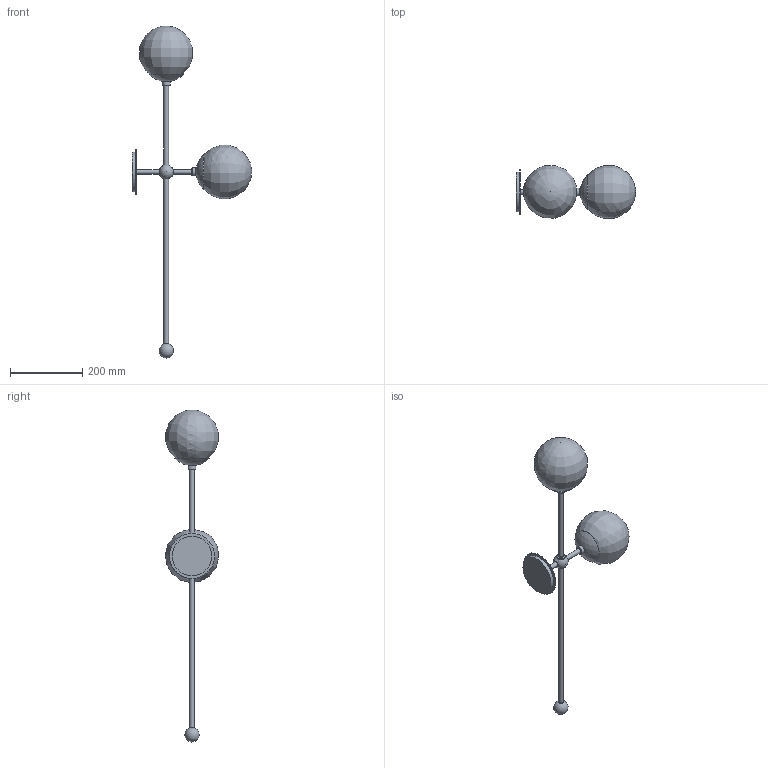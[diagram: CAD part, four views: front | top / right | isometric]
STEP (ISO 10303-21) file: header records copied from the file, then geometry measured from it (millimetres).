
FILE_DESCRIPTION(/* description */ (''),/* implementation_level */ '2;1');
FILE_NAME(/* name */ 'T:\B577 Globe Armstrong Wallsconce 2 Long\Pliki bryłowe handlowe\B577 Globe Dual 3D files_na stronę\B577 Globe Dual.stp',/* time_stamp */ '2022-02-02T16:20:18+01:00',/* author */ ('Mariusz Awariusz'),/* organization */ (''),/* preprocessor_version */ 'ST-DEVELOPER v18.1',/* originating_system */ 'Autodesk Inventor 2022',/* authorisation */ '');
FILE_SCHEMA (('AUTOMOTIVE_DESIGN { 1 0 10303 214 3 1 1 }'));
Length unit declared in the file: millimetre
Products named in the file (1): B577 Globe Armstrong Wallsconce 2 Long CE v1_na potrzeby plików 3
D_2_jako część_korpusy bryłowe
Bounding box: 331.37 x 148.05 x 922.15 mm (x, y, z)
Volume: 588131 mm3; surface area: 402519 mm2
Topology: 15 solids, 15 shells, 106 faces, 180 edges, 115 vertices
Faces by surface type: plane 38, cylinder 35, cone 18, sphere 7, torus 4, bspline 4
Full cylindrical faces by diameter (mm): 11.6 x6, 11.917 x2, 13 x10, 13.5 x3, 16 x4, 20.6 x1, 22 x3, 23.1 x1, 23.5 x1, 50.221 x2, 110 x1, 125 x1
Entity records: 2698 total; most frequent: CARTESIAN_POINT 570, DIRECTION 497, ORIENTED_EDGE 344, AXIS2_PLACEMENT_3D 222, EDGE_CURVE 172, EDGE_LOOP 129, CIRCLE 119, VERTEX_POINT 115
